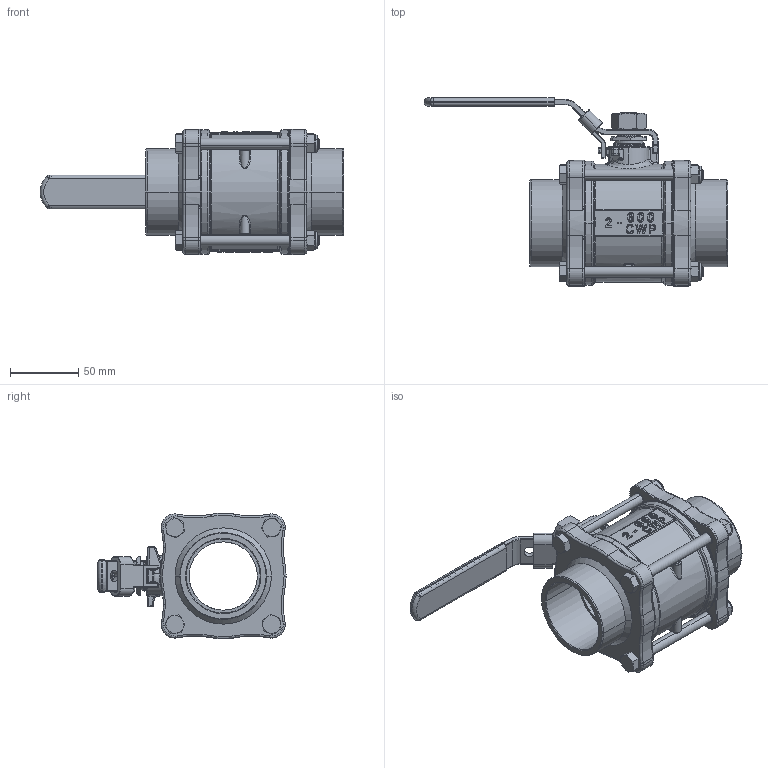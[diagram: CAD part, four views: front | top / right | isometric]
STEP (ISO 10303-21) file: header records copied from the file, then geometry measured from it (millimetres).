
FILE_DESCRIPTION (( 'STEP AP203' ), '1' );
FILE_NAME ('S-50.STEP', '2025-02-27T05:20:43', ( 'user' ), ( '' ), 'SwSTEP 2.0', 'SolidWorks 2012', '' );
FILE_SCHEMA (( 'CONFIG_CONTROL_DESIGN' ));
Length unit declared in the file: millimetre
Products named in the file (17): S-50; 15-HANDLE NUT; 掛鎖; 14-HANDLE COVER; 13-HANDLE; 12-CAP BOLT; 11-CAP NUT; 10-GLAND; 9-BODY SEAL; 8-GLAND PACKING; 7-O-RING; 6-THRUST WASHER; 5-SEAT; 4-STEM; 3-BALL; 2-CAP; 1-BODY
Assembly tree (26 placements, depth 2):
  S-50
    1-BODY
    2-CAP  x2
    3-BALL
    4-STEM
    5-SEAT  x2
    6-THRUST WASHER
    7-O-RING  x2
    8-GLAND PACKING
    9-BODY SEAL  x2
    10-GLAND
    11-CAP NUT  x4
    12-CAP BOLT  x4
    13-HANDLE
    14-HANDLE COVER
    掛鎖
    15-HANDLE NUT
Bounding box: 222 x 137.7 x 92 mm (x, y, z)
Volume: 481341.1 mm3; surface area: 193173.1 mm2
Topology: 26 solids, 26 shells, 1609 faces, 4004 edges, 2428 vertices
Faces by surface type: cylinder 566, bspline 377, plane 300, cone 161, torus 151, sphere 54
Entity records: 80150 total; most frequent: CARTESIAN_POINT 53964, ORIENTED_EDGE 5508, DIRECTION 4500, EDGE_CURVE 2754, AXIS2_PLACEMENT_3D 1872, VERTEX_POINT 1675, EDGE_LOOP 1213, ADVANCED_FACE 1143
